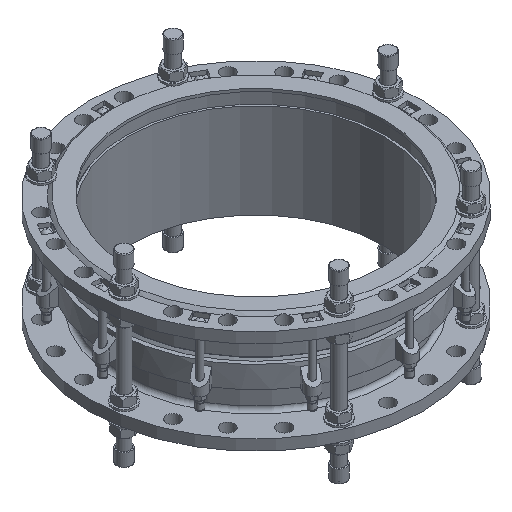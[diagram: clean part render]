
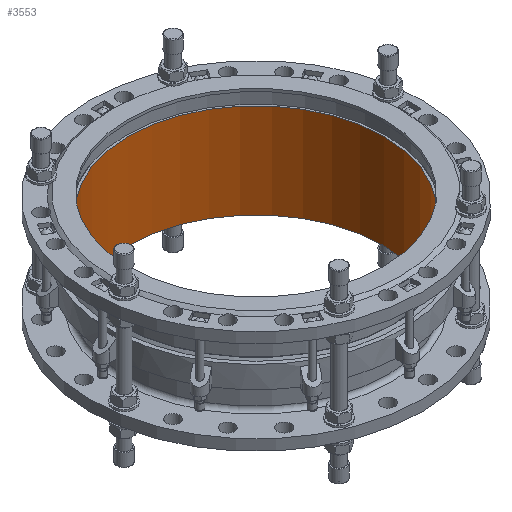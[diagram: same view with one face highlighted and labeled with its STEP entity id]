
A CAD part, isometric view. The second image highlights one B-rep face of the part: STEP entity #3553.
In plain terms, the highlighted cylindrical face has radius 350 mm (diameter 700 mm), a full revolution.
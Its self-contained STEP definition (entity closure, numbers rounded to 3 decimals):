
#3553=ADVANCED_FACE('',(#4354,#4356),#4358,.F.);
#4354=FACE_OUTER_BOUND('',#4355,.T.);
#4355=EDGE_LOOP('',(#7754));
#4356=FACE_OUTER_BOUND('',#4357,.T.);
#4357=EDGE_LOOP('',(#7755));
#4358=CYLINDRICAL_SURFACE('',#4359,350.);
#4359=AXIS2_PLACEMENT_3D('',#4360,#4361,#4362);
#4360=CARTESIAN_POINT('',(0.,0.,0.));
#4361=DIRECTION('',(0.,0.,1.));
#4362=DIRECTION('',(-1.,0.,0.));
#7754=ORIENTED_EDGE('',*,*,#10129,.F.);
#7755=ORIENTED_EDGE('',*,*,#10130,.F.);
#10129=EDGE_CURVE('',#11232,#11232,#11233,.T.);
#10130=EDGE_CURVE('',#11234,#11234,#11235,.T.);
#11232=VERTEX_POINT('',#13131);
#11233=CIRCLE('',#13132,350.);
#11234=VERTEX_POINT('',#13136);
#11235=CIRCLE('',#13137,350.);
#13131=CARTESIAN_POINT('',(-350.,0.,259.));
#13132=AXIS2_PLACEMENT_3D('',#13133,#13134,#13135);
#13133=CARTESIAN_POINT('',(0.,0.,259.));
#13134=DIRECTION('',(0.,0.,-1.));
#13135=DIRECTION('',(-1.,0.,0.));
#13136=CARTESIAN_POINT('',(-350.,0.,0.));
#13137=AXIS2_PLACEMENT_3D('',#13138,#13139,#13140);
#13138=CARTESIAN_POINT('',(0.,0.,0.));
#13139=DIRECTION('',(0.,0.,1.));
#13140=DIRECTION('',(-1.,0.,0.));
